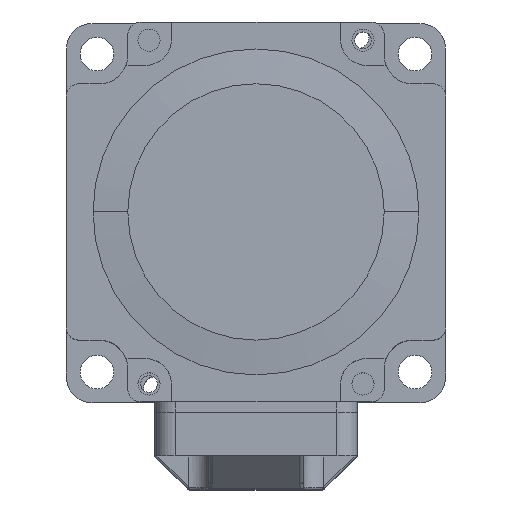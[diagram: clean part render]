
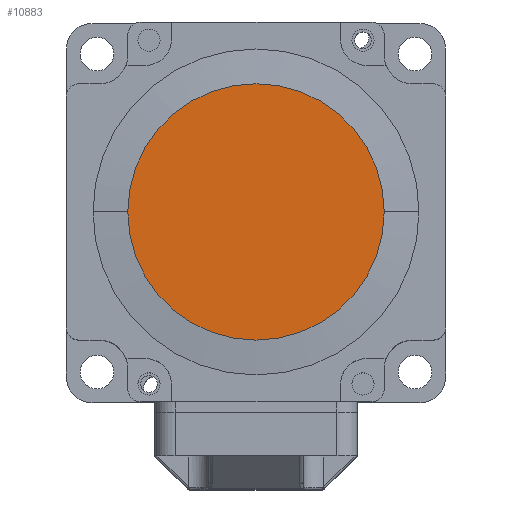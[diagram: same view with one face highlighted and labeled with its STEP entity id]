
A CAD part, top view. The second image highlights one B-rep face of the part: STEP entity #10883.
In plain terms, the highlighted planar face has unit normal (0, 0, 1).
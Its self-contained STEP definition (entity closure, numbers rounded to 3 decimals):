
#250 = CARTESIAN_POINT ( 'NONE',  ( -19., 0., 22. ) ) ;
#599 = ORIENTED_EDGE ( 'NONE', *, *, #11987, .F. ) ;
#1463 = CIRCLE ( 'NONE', #29268, 19. ) ;
#3126 = EDGE_CURVE ( 'NONE', #12340, #4936, #1463, .T. ) ;
#3408 = AXIS2_PLACEMENT_3D ( 'NONE', #14651, #12711, #14804 ) ;
#4936 = VERTEX_POINT ( 'NONE', #21980 ) ;
#5638 = CARTESIAN_POINT ( 'NONE',  ( 0., 0., 22. ) ) ;
#8999 = EDGE_LOOP ( 'NONE', ( #27418, #599 ) ) ;
#9272 = DIRECTION ( 'NONE',  ( 1., 0., 0. ) ) ;
#9691 = DIRECTION ( 'NONE',  ( 0., 0., -1. ) ) ;
#10883 = ADVANCED_FACE ( 'NONE', ( #20992 ), #27757, .T. ) ;
#11987 = EDGE_CURVE ( 'NONE', #4936, #12340, #16313, .T. ) ;
#12340 = VERTEX_POINT ( 'NONE', #250 ) ;
#12711 = DIRECTION ( 'NONE',  ( 0., 0., -1. ) ) ;
#14651 = CARTESIAN_POINT ( 'NONE',  ( 0., 0., 22. ) ) ;
#14804 = DIRECTION ( 'NONE',  ( -1., 0., 0. ) ) ;
#16007 = CARTESIAN_POINT ( 'NONE',  ( 0., 0., 22. ) ) ;
#16153 = DIRECTION ( 'NONE',  ( 0., 0., 1. ) ) ;
#16313 = CIRCLE ( 'NONE', #3408, 19. ) ;
#16723 = DIRECTION ( 'NONE',  ( -1., 0., 0. ) ) ;
#19636 = AXIS2_PLACEMENT_3D ( 'NONE', #16007, #16153, #9272 ) ;
#20992 = FACE_OUTER_BOUND ( 'NONE', #8999, .T. ) ;
#21980 = CARTESIAN_POINT ( 'NONE',  ( 19., 0., 22. ) ) ;
#27418 = ORIENTED_EDGE ( 'NONE', *, *, #3126, .F. ) ;
#27757 = PLANE ( 'NONE',  #19636 ) ;
#29268 = AXIS2_PLACEMENT_3D ( 'NONE', #5638, #9691, #16723 ) ;
